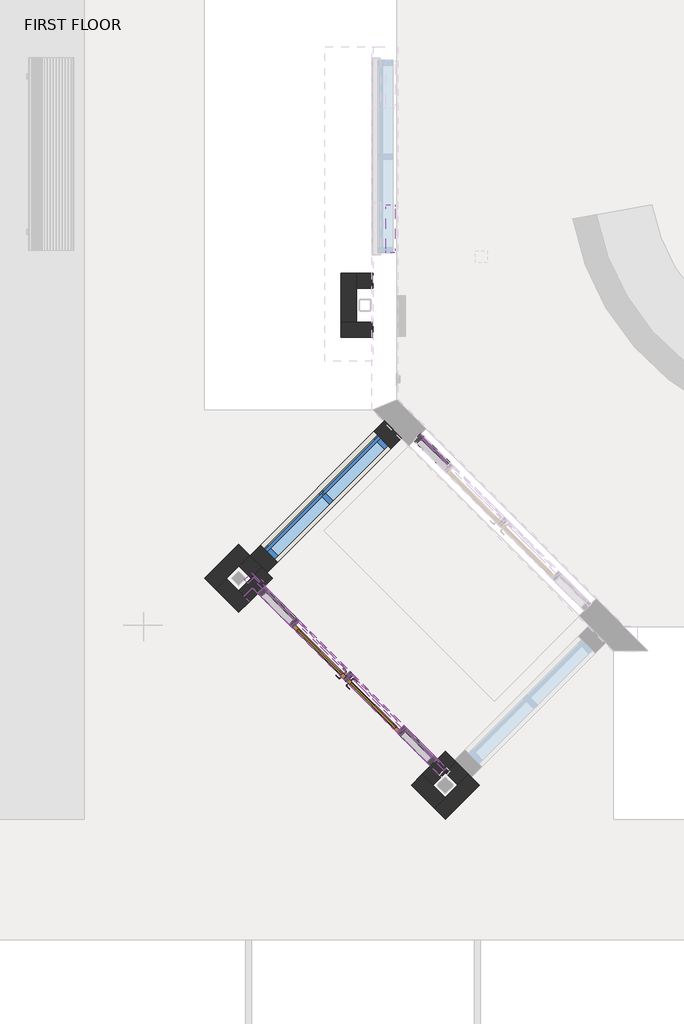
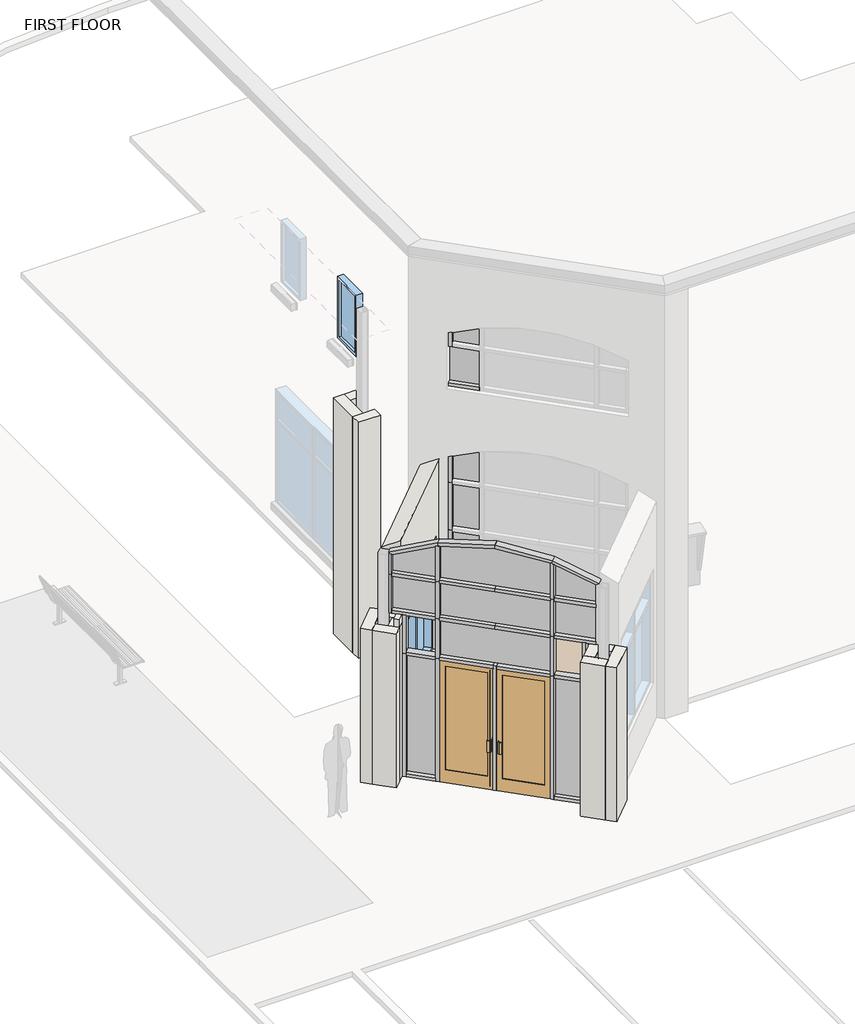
# One storey, part 1 of 7: 40 members, 15 plates, 13 walls, 2 doors, 2 windows.
"""IFC4 building model written with IfcOpenShell, lengths in millimetres."""

from ifc_helpers import new_model, si_unit, frame, origin, place, context, project, spatial, polyline, circle_curve, outline, extrude, faceted_brep, transform, mapped, element, save
from ifc_brep_helpers import plane_surface, cylinder_surface, advanced_brep
from components import curtain_wall_store_front_single_med_stile_store_front_single_c6cdc8f1, curtain_wall_store_front_single_med_stile_store_front_single_1d4f68a2, member_33497832, member_f0fea5a5, member_5535eeb3, member_ee409385, member_57980dff, member_c7d2ba5d, member_623bfa76, member_e557a406, member_0d25082b, member_52f6b921, member_60276a26, member_00b05e59, member_7eb850c3, member_627026b5, member_720a8fcb, member_9ba9524c, member_fa7abc04, member_438d2f6f, member_faeb69b8, member_37fa9b24, member_2cf29476, member_18a184ad, member_8ca7f02a, member_46f5bc36, member_aa870034, member_95b791d6, member_274b5bb4, member_b86862dd, system_panel_glazed_7ef526e5, system_panel_glazed_cf9f2373, system_panel_glazed_625fda9a, system_panel_glazed_4b47f067, system_panel_glazed_9944f469, system_panel_glazed_93fda46f, system_panel_glazed_61f50c52, system_panel_glazed_463703e3, system_panel_glazed_89c3e3a8, system_panel_glazed_499409c8, system_panel_glazed_23cc593c, system_panel_glazed_6117aa94, system_panel_glazed_f2188aaa, system_panel_glazed_1c0335f5, system_panel_glazed_6635dc3f, aluminum_exterior_window_single_3885_e2dbf674, window_5003604b

model = new_model("IFC4")

# Units and contexts
model_context = context("Model", 3, world=origin())
ifc_project = project(units=[si_unit("LENGTHUNIT", "METRE", prefix="MILLI")], contexts=[model_context])

# Site, building, storey
site = spatial("IfcSite", under=ifc_project)
building = spatial("IfcBuilding", under=site)
storey = spatial("IfcBuildingStorey", under=building, Name="FIRST FLOOR", Elevation=30480.0)

# Doors
placement = place(None, origin())
curtain_wall_store_front_single_med_stile_store_front_single_shape = curtain_wall_store_front_single_med_stile_store_front_single_c6cdc8f1(model_context)
element("IfcDoor", 1, ObjectType="Curtain Wall-Store Front-Single Med Stile : Store Front Single Door", at=placement, inside=storey, context=model_context, shape_type="MappedRepresentation", body=[
    mapped(curtain_wall_store_front_single_med_stile_store_front_single_shape, transform((-16797.3324176, -6929.3654032, 30480.0), x_axis=(0.707106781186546, -0.7071067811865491, 0.0), y_axis=(0.7071067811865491, 0.707106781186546, 0.0), z_axis=(0.0, 0.0, 1.0))),
])
curtain_wall_store_front_single_med_stile_store_front_single_2_shape = curtain_wall_store_front_single_med_stile_store_front_single_1d4f68a2(model_context)
element("IfcDoor", 2, ObjectType="Curtain Wall-Store Front-Single Med Stile : Store Front Single Door", at=placement, inside=storey, context=model_context, shape_type="MappedRepresentation", body=[
    mapped(curtain_wall_store_front_single_med_stile_store_front_single_2_shape, transform((-17479.8318828, -6246.8659379, 30480.0), x_axis=(-0.707106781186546, 0.7071067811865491, 0.0), y_axis=(-0.7071067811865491, -0.707106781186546, 0.0), z_axis=(0.0, 0.0, 1.0))),
])

# Members
member_shape = member_33497832(model_context)
element("IfcMember", 3, ObjectType="Rectangular Mullion : 2.5\" x 5\" rectangular", at=placement, inside=storey, context=model_context, shape_type="MappedRepresentation", body=[
    mapped(member_shape, transform((-17161.0327905, -6565.6650302, 32918.4), x_axis=(0.0, 0.0, 1.0), y_axis=(-0.7071067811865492, -0.7071067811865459, 0.0), z_axis=(0.7071067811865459, -0.7071067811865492, 0.0))),
])
element("IfcMember", 4, ObjectType="Rectangular Mullion : 2.5\" x 5\" rectangular", at=placement, inside=storey, context=model_context, shape_type="MappedRepresentation", body=[
    mapped(member_shape, transform((-16478.5333253, -7248.1644954, 32918.4), x_axis=(0.0, 0.0, 1.0), y_axis=(-0.7071067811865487, -0.7071067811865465, 0.0), z_axis=(0.7071067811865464, -0.7071067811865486, 0.0))),
])
member_2_shape = member_f0fea5a5(model_context)
element("IfcMember", 5, ObjectType="Rectangular Mullion : 2.5\" x 5\" rectangular", at=placement, inside=storey, context=model_context, shape_type="MappedRepresentation", body=[
    mapped(member_2_shape, transform((-16456.082685, -7270.6151358, 30480.0), x_axis=(0.707106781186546, -0.7071067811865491, 0.0), y_axis=(-0.7071067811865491, -0.707106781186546, 0.0), z_axis=(0.0, 0.0, -1.0))),
])
element("IfcMember", 6, ObjectType="Rectangular Mullion : 2.5\" x 5\" rectangular", at=placement, inside=storey, context=model_context, shape_type="MappedRepresentation", body=[
    mapped(member_2_shape, transform((-17821.0816154, -5905.6162053, 30480.0), x_axis=(0.707106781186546, -0.7071067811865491, 0.0), y_axis=(-0.7071067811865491, -0.707106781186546, 0.0), z_axis=(0.0, 0.0, -1.0))),
])
member_3_shape = member_5535eeb3(model_context)
element("IfcMember", 7, ObjectType="Rectangular Mullion : 2.5\" x 5\" rectangular", at=placement, inside=storey, context=model_context, shape_type="MappedRepresentation", body=[
    mapped(member_3_shape, transform((-16217.3167265, -3601.391339, 30480.0), x_axis=(0.0, 0.0, -1.0), y_axis=(-0.7071067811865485, -0.7071067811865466, 0.0), z_axis=(-0.7071067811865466, 0.7071067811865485, 0.0))),
])
member_4_shape = member_ee409385(model_context)
element("IfcMember", 8, ObjectType="Rectangular Mullion : 2.5\" x 5\" rectangular", at=placement, inside=storey, context=model_context, shape_type="MappedRepresentation", body=[
    mapped(member_4_shape, transform((-16262.2180071, -3556.4900584, 32918.4), x_axis=(-0.707106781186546, 0.7071067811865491, 0.0), y_axis=(-0.7071067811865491, -0.707106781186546, 0.0), z_axis=(0.0, 0.0, 1.0))),
])
element("IfcMember", 9, ObjectType="Rectangular Mullion : 2.5\" x 5\" rectangular", at=placement, inside=storey, context=model_context, shape_type="MappedRepresentation", body=[
    mapped(member_4_shape, transform((-18239.6147633, -5487.0830574, 32918.4), x_axis=(-0.707106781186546, 0.7071067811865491, 0.0), y_axis=(-0.7071067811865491, -0.707106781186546, 0.0), z_axis=(0.0, 0.0, 1.0))),
])
member_5_shape = member_57980dff(model_context)
element("IfcMember", 10, ObjectType="Rectangular Mullion : 2.5\" x 5\" rectangular", at=placement, inside=storey, context=model_context, shape_type="MappedRepresentation", body=[
    mapped(member_5_shape, transform((-17138.5821502, -6588.1156705, 30480.0), x_axis=(0.707106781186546, -0.7071067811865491, 0.0), y_axis=(-0.7071067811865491, -0.707106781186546, 0.0), z_axis=(0.0, 0.0, -1.0))),
])
element("IfcMember", 11, ObjectType="Rectangular Mullion : 2.5\" x 5\" rectangular", at=placement, inside=storey, context=model_context, shape_type="MappedRepresentation", body=[
    mapped(member_4_shape, transform((-16053.719351, -7672.9784698, 30480.0), x_axis=(0.707106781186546, -0.7071067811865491, 0.0), y_axis=(-0.7071067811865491, -0.707106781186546, 0.0), z_axis=(0.0, 0.0, -1.0))),
])
member_6_shape = member_c7d2ba5d(model_context)
element("IfcMember", 12, ObjectType="Rectangular Mullion : 2.5\" x 5\" rectangular", at=placement, inside=storey, context=model_context, shape_type="MappedRepresentation", body=[
    mapped(member_6_shape, transform((-17138.5821502, -6588.1156705, 34442.4), x_axis=(0.0, 0.0, 1.0), y_axis=(-0.7071067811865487, -0.7071067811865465, 0.0), z_axis=(0.7071067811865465, -0.7071067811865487, 0.0))),
])
element("IfcMember", 13, ObjectType="Rectangular Mullion : 2.5\" x 5\" rectangular", at=placement, inside=storey, context=model_context, shape_type="MappedRepresentation", body=[
    mapped(member_6_shape, transform((-17138.5821502, -6588.1156705, 33705.8), x_axis=(0.0, 0.0, 1.0), y_axis=(-0.7071067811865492, -0.7071067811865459, 0.0), z_axis=(0.7071067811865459, -0.7071067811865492, 0.0))),
])
element("IfcMember", 14, ObjectType="Rectangular Mullion : 2.5\" x 5\" rectangular", at=placement, inside=storey, context=model_context, shape_type="MappedRepresentation", body=[
    mapped(member_6_shape, transform((-16478.5333253, -7248.1644954, 34442.4), x_axis=(0.0, 0.0, 1.0), y_axis=(-0.7071067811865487, -0.7071067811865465, 0.0), z_axis=(0.7071067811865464, -0.7071067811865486, 0.0))),
])
element("IfcMember", 15, ObjectType="Rectangular Mullion : 2.5\" x 5\" rectangular", at=placement, inside=storey, context=model_context, shape_type="MappedRepresentation", body=[
    mapped(member_6_shape, transform((-16478.5333253, -7248.1644954, 33705.8), x_axis=(0.0, 0.0, 1.0), y_axis=(-0.7071067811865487, -0.7071067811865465, 0.0), z_axis=(0.7071067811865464, -0.7071067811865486, 0.0))),
])
member_7_shape = member_623bfa76(model_context)
element("IfcMember", 16, ObjectType="Rectangular Mullion : 2.5\" x 5\" rectangular", at=placement, inside=storey, context=model_context, shape_type="MappedRepresentation", body=[
    mapped(member_7_shape, transform((-16262.2180071, -3556.4900584, 33502.6), x_axis=(-0.707106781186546, 0.7071067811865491, 0.0), y_axis=(-0.7071067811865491, -0.707106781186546, 0.0), z_axis=(0.0, 0.0, 1.0))),
])
member_8_shape = member_e557a406(model_context)
element("IfcMember", 17, ObjectType="Rectangular Mullion : 2.5\" x 5\" rectangular", at=placement, inside=storey, context=model_context, shape_type="MappedRepresentation", body=[
    mapped(member_8_shape, transform((-16262.2180071, -3556.4900584, 34442.4), x_axis=(-0.707106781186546, 0.7071067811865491, 0.0), y_axis=(-0.7071067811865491, -0.707106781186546, 0.0), z_axis=(0.0, 0.0, 1.0))),
])
member_9_shape = member_0d25082b(model_context)
element("IfcMember", 18, ObjectType="Rectangular Mullion : 2.5\" x 5\" rectangular", at=placement, inside=storey, context=model_context, shape_type="MappedRepresentation", body=[
    mapped(member_9_shape, transform((-16262.2180071, -3556.4900584, 35006.8677208), x_axis=(-0.707106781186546, 0.7071067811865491, 0.0), y_axis=(-0.7071067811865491, -0.707106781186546, 0.0), z_axis=(0.0, 0.0, 1.0))),
])
member_10_shape = member_52f6b921(model_context)
element("IfcMember", 19, ObjectType="Rectangular Mullion : 2.5\" x 5\" rectangular", at=placement, inside=storey, context=model_context, shape_type="MappedRepresentation", body=[
    mapped(member_10_shape, transform((-17843.5322557, -5883.165565, 32918.4), x_axis=(0.0, 0.0, 1.0), y_axis=(-0.7071067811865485, -0.7071067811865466, 0.0), z_axis=(0.7071067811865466, -0.7071067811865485, 0.0))),
])
member_11_shape = member_60276a26(model_context)
element("IfcMember", 20, ObjectType="Rectangular Mullion : 2.5\" x 5\" rectangular", at=placement, inside=storey, context=model_context, shape_type="MappedRepresentation", body=[
    mapped(member_11_shape, transform((-16098.6206316, -7628.0771892, 32918.4), x_axis=(0.0, 0.0, 1.0), y_axis=(-0.7071067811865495, -0.7071067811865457, 0.0), z_axis=(0.7071067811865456, -0.7071067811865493, 0.0))),
])
member_12_shape = member_00b05e59(model_context)
element("IfcMember", 21, ObjectType="Rectangular Mullion : 2.5\" x 5\" rectangular", at=placement, inside=storey, context=model_context, shape_type="MappedRepresentation", body=[
    mapped(member_12_shape, transform((-18194.7134827, -5531.984338, 30480.0), x_axis=(0.0, 0.0, -1.0), y_axis=(-0.7071067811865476, -0.7071067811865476, 0.0), z_axis=(-0.7071067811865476, 0.7071067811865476, 0.0))),
])
member_13_shape = member_7eb850c3(model_context)
element("IfcMember", 22, ObjectType="Rectangular Mullion : 2.5\" x 5\" rectangular", at=placement, inside=storey, context=model_context, shape_type="MappedRepresentation", body=[
    mapped(member_13_shape, transform((-16433.6320447, -7293.0657761, 30480.0), x_axis=(0.0, 0.0, -1.0), y_axis=(-0.7071067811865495, -0.7071067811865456, 0.0), z_axis=(-0.7071067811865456, 0.7071067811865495, 0.0))),
])
member_14_shape = member_627026b5(model_context)
element("IfcMember", 23, ObjectType="Rectangular Mullion : 2.5\" x 5\" rectangular", at=placement, inside=storey, context=model_context, shape_type="MappedRepresentation", body=[
    mapped(member_14_shape, transform((-16456.082685, -7270.6151358, 34442.4), x_axis=(0.707106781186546, -0.7071067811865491, 0.0), y_axis=(-0.7071067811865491, -0.707106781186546, 0.0), z_axis=(0.0, 0.0, -1.0))),
])
member_15_shape = member_720a8fcb(model_context)
element("IfcMember", 24, ObjectType="Rectangular Mullion : 2.5\" x 5\" rectangular", at=placement, inside=storey, context=model_context, shape_type="MappedRepresentation", body=[
    mapped(member_15_shape, transform((-17821.0816154, -5905.6162053, 34442.4), x_axis=(0.707106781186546, -0.7071067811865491, 0.0), y_axis=(-0.7071067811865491, -0.707106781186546, 0.0), z_axis=(0.0, 0.0, -1.0))),
])
member_16_shape = member_9ba9524c(model_context)
element("IfcMember", 25, ObjectType="Rectangular Mullion : 2.5\" x 5\" rectangular", at=placement, inside=storey, context=model_context, shape_type="MappedRepresentation", body=[
    mapped(member_16_shape, transform((-17138.5821502, -6588.1156705, 35335.2420044), x_axis=(-0.0008797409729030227, 0.0008797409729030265, 0.9999992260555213), y_axis=(-0.7071067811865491, -0.707106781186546, 0.0), z_axis=(0.7071062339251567, -0.7071062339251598, 0.0012441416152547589))),
])
member_17_shape = member_fa7abc04(model_context)
element("IfcMember", 26, ObjectType="Rectangular Mullion : 2.5\" x 5\" rectangular", at=placement, inside=storey, context=model_context, shape_type="MappedRepresentation", body=[
    mapped(member_17_shape, transform((-16456.082685, -7270.6151358, 35209.163552), x_axis=(0.18248144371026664, -0.18248144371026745, 0.9661268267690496), y_axis=(-0.7071067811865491, -0.707106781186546, 0.0), z_axis=(0.6831548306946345, -0.6831548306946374, -0.2580677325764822))),
])
member_18_shape = member_438d2f6f(model_context)
element("IfcMember", 27, ObjectType="Rectangular Mullion : 2.5\" x 5\" rectangular", at=placement, inside=storey, context=model_context, shape_type="MappedRepresentation", body=[
    mapped(member_18_shape, transform((-17843.5322557, -5883.165565, 34442.4), x_axis=(0.0, 0.0, 1.0), y_axis=(-0.7071067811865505, -0.7071067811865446, 0.0), z_axis=(0.7071067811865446, -0.7071067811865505, 0.0))),
])
element("IfcMember", 28, ObjectType="Rectangular Mullion : 2.5\" x 5\" rectangular", at=placement, inside=storey, context=model_context, shape_type="MappedRepresentation", body=[
    mapped(member_18_shape, transform((-17843.5322557, -5883.165565, 33705.8), x_axis=(0.0, 0.0, 1.0), y_axis=(-0.7071067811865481, -0.7071067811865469, 0.0), z_axis=(0.7071067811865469, -0.7071067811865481, 0.0))),
])
member_19_shape = member_faeb69b8(model_context)
element("IfcMember", 29, ObjectType="Rectangular Mullion : 2.5\" x 5\" rectangular", at=placement, inside=storey, context=model_context, shape_type="MappedRepresentation", body=[
    mapped(member_19_shape, transform((-17821.0816154, -5905.6162053, 35206.676796), x_axis=(-0.18424092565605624, 0.18424092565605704, 0.9654587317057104), y_axis=(-0.7071067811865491, -0.7071067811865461, 0.0), z_axis=(0.68268241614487, -0.6826824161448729, 0.2605560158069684))),
])
member_20_shape = member_37fa9b24(model_context)
element("IfcMember", 30, ObjectType="Rectangular Mullion : 2.5\" x 5\" rectangular", at=placement, inside=storey, context=model_context, shape_type="MappedRepresentation", body=[
    mapped(member_20_shape, transform((-18409.6082054, -5317.0896154, 34869.8916108), x_axis=(-0.707106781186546, 0.7071067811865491, 0.0), y_axis=(-0.7071067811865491, -0.707106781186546, 0.0), z_axis=(0.0, 0.0, 1.0))),
])
member_21_shape = member_2cf29476(model_context)
element("IfcMember", 31, ObjectType="Rectangular Mullion : 2.5\" x 5\" rectangular", at=placement, inside=storey, context=model_context, shape_type="MappedRepresentation", body=[
    mapped(member_21_shape, transform((-15939.8407999, -7786.8570208, 34442.4), x_axis=(0.0, 0.0, 1.0), y_axis=(-0.7071067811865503, -0.7071067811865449, 0.0), z_axis=(0.7071067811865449, -0.7071067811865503, 0.0))),
])
element("IfcMember", 32, ObjectType="Rectangular Mullion : 2.5\" x 5\" rectangular", at=placement, inside=storey, context=model_context, shape_type="MappedRepresentation", body=[
    mapped(member_21_shape, transform((-15939.8407999, -7786.8570208, 33705.8), x_axis=(0.0, 0.0, 1.0), y_axis=(-0.7071067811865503, -0.7071067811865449, 0.0), z_axis=(0.7071067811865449, -0.7071067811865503, 0.0))),
])
member_22_shape = member_18a184ad(model_context)
element("IfcMember", 33, ObjectType="Rectangular Mullion : 2.5\" x 5\" rectangular", at=placement, inside=storey, context=model_context, shape_type="MappedRepresentation", body=[
    mapped(member_22_shape, transform((-16456.082685, -7270.6151358, 32918.4), x_axis=(0.707106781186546, -0.7071067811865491, 0.0), y_axis=(-0.7071067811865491, -0.707106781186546, 0.0), z_axis=(0.0, 0.0, -1.0))),
])
element("IfcMember", 34, ObjectType="Rectangular Mullion : 2.5\" x 5\" rectangular", at=placement, inside=storey, context=model_context, shape_type="MappedRepresentation", body=[
    mapped(member_22_shape, transform((-17821.0816154, -5905.6162053, 32918.4), x_axis=(0.707106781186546, -0.7071067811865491, 0.0), y_axis=(-0.7071067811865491, -0.707106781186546, 0.0), z_axis=(0.0, 0.0, -1.0))),
])
member_23_shape = member_8ca7f02a(model_context)
element("IfcMember", 35, ObjectType="Rectangular Mullion : 2.5\" x 5\" rectangular", at=placement, inside=storey, context=model_context, shape_type="MappedRepresentation", body=[
    mapped(member_23_shape, transform((-16456.082685, -7270.6151358, 33705.8), x_axis=(0.707106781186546, -0.7071067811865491, 0.0), y_axis=(-0.7071067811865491, -0.707106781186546, 0.0), z_axis=(0.0, 0.0, -1.0))),
])
element("IfcMember", 36, ObjectType="Rectangular Mullion : 2.5\" x 5\" rectangular", at=placement, inside=storey, context=model_context, shape_type="MappedRepresentation", body=[
    mapped(member_23_shape, transform((-17821.0816154, -5905.6162053, 33705.8), x_axis=(0.707106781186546, -0.7071067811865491, 0.0), y_axis=(-0.7071067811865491, -0.707106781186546, 0.0), z_axis=(0.0, 0.0, -1.0))),
])
member_24_shape = member_46f5bc36(model_context)
element("IfcMember", 37, ObjectType="Rectangular Mullion : 2.5\" x 5\" rectangular", at=placement, inside=storey, context=model_context, shape_type="MappedRepresentation", body=[
    mapped(member_24_shape, transform((-18409.6082054, -5317.0896154, 34442.4), x_axis=(-0.707106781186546, 0.7071067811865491, 0.0), y_axis=(-0.7071067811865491, -0.707106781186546, 0.0), z_axis=(0.0, 0.0, 1.0))),
])
member_25_shape = member_aa870034(model_context)
element("IfcMember", 38, ObjectType="Rectangular Mullion : 2.5\" x 5\" rectangular", at=placement, inside=storey, context=model_context, shape_type="MappedRepresentation", body=[
    mapped(member_25_shape, transform((-18239.6147633, -5487.0830574, 33680.4), x_axis=(-0.707106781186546, 0.7071067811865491, 0.0), y_axis=(-0.7071067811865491, -0.707106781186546, 0.0), z_axis=(0.0, 0.0, 1.0))),
])
element("IfcMember", 39, ObjectType="Rectangular Mullion : 2.5\" x 5\" rectangular", at=placement, inside=storey, context=model_context, shape_type="MappedRepresentation", body=[
    mapped(member_25_shape, transform((-16053.719351, -7672.9784698, 32918.4), x_axis=(0.707106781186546, -0.7071067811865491, 0.0), y_axis=(-0.7071067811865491, -0.707106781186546, 0.0), z_axis=(0.0, 0.0, -1.0))),
])
member_26_shape = member_95b791d6(model_context)
element("IfcMember", 40, ObjectType="Rectangular Mullion : 2.5\" x 5\" rectangular", at=placement, inside=storey, context=model_context, shape_type="MappedRepresentation", body=[
    mapped(member_26_shape, transform((-16262.2180071, -3556.4900584, 37454.4517124), x_axis=(-0.7071067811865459, 0.7071067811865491, 0.0), y_axis=(-0.7071067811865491, -0.7071067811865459, 0.0), z_axis=(0.0, 0.0, 1.0))),
])
member_27_shape = member_274b5bb4(model_context)
element("IfcMember", 41, ObjectType="Rectangular Mullion : 2.5\" x 5\" rectangular", at=placement, inside=storey, context=model_context, shape_type="MappedRepresentation", body=[
    mapped(member_27_shape, transform((-16262.2180071, -3556.4900584, 36347.4), x_axis=(0.0, 0.0, -1.0), y_axis=(-0.707106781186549, -0.7071067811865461, 0.0), z_axis=(-0.707106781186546, 0.7071067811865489, 0.0))),
])
member_28_shape = member_b86862dd(model_context)
element("IfcMember", 42, ObjectType="Rectangular Mullion : 2.5\" x 5\" rectangular", at=placement, inside=storey, context=model_context, shape_type="MappedRepresentation", body=[
    mapped(member_28_shape, transform((-15894.9395193, -7831.7583014, 34895.987271), x_axis=(0.33323888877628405, -0.33323888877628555, 0.8819884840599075), y_axis=(-0.7071067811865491, -0.707106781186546, 0.0), z_axis=(0.6236600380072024, -0.6236600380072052, -0.4712709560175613))),
])

# Plates
system_panel_glazed_shape = system_panel_glazed_7ef526e5(model_context)
element("IfcPlate", 43, ObjectType="System Panel : Glazed", at=placement, inside=storey, context=model_context, shape_type="MappedRepresentation", body=[
    mapped(system_panel_glazed_shape, transform((-16053.4270523, -3765.2810133, 30543.5), x_axis=(0.707106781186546, -0.7071067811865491, 0.0), y_axis=(0.7071067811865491, 0.707106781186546, 0.0), z_axis=(0.0, 0.0, 1.0))),
])
system_panel_glazed_2_shape = system_panel_glazed_cf9f2373(model_context)
element("IfcPlate", 44, ObjectType="System Panel : Glazed", at=placement, inside=storey, context=model_context, shape_type="MappedRepresentation", body=[
    mapped(system_panel_glazed_2_shape, transform((-16053.4270523, -3765.2810133, 32950.15), x_axis=(0.707106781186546, -0.7071067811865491, 0.0), y_axis=(0.7071067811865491, 0.707106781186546, 0.0), z_axis=(0.0, 0.0, 1.0))),
])
system_panel_glazed_3_shape = system_panel_glazed_625fda9a(model_context)
element("IfcPlate", 45, ObjectType="System Panel : Glazed", at=placement, inside=storey, context=model_context, shape_type="MappedRepresentation", body=[
    mapped(system_panel_glazed_3_shape, transform((-16053.4270523, -3765.2810133, 33534.35), x_axis=(0.707106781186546, -0.7071067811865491, 0.0), y_axis=(0.7071067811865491, 0.707106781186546, 0.0), z_axis=(0.0, 0.0, 1.0))),
])
system_panel_glazed_4_shape = system_panel_glazed_4b47f067(model_context)
element("IfcPlate", 46, ObjectType="System Panel : Glazed", at=placement, inside=storey, context=model_context, shape_type="MappedRepresentation", body=[
    mapped(system_panel_glazed_4_shape, transform((-16053.4270523, -3765.2810133, 34474.15), x_axis=(0.707106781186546, -0.7071067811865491, 0.0), y_axis=(0.7071067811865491, 0.707106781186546, 0.0), z_axis=(0.0, 0.0, 1.0))),
])
system_panel_glazed_5_shape = system_panel_glazed_9944f469(model_context)
element("IfcPlate", 47, ObjectType="System Panel : Glazed", at=placement, inside=storey, context=model_context, shape_type="MappedRepresentation", body=[
    mapped(system_panel_glazed_5_shape, transform((-17138.5821502, -6588.1156705, 34474.15), x_axis=(0.707106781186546, -0.7071067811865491, 0.0), y_axis=(0.7071067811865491, 0.707106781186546, 0.0), z_axis=(0.0, 0.0, 1.0))),
])
system_panel_glazed_6_shape = system_panel_glazed_93fda46f(model_context)
element("IfcPlate", 48, ObjectType="System Panel : Glazed", at=placement, inside=storey, context=model_context, shape_type="MappedRepresentation", body=[
    mapped(system_panel_glazed_6_shape, transform((-16053.4270523, -3765.2810133, 37191.95), x_axis=(0.7071067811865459, -0.7071067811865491, 0.0), y_axis=(0.7071067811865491, 0.7071067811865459, 0.0), z_axis=(0.0, 0.0, 1.0))),
])
system_panel_glazed_7_shape = system_panel_glazed_61f50c52(model_context)
element("IfcPlate", 49, ObjectType="System Panel : Glazed", at=placement, inside=storey, context=model_context, shape_type="MappedRepresentation", body=[
    mapped(system_panel_glazed_7_shape, transform((-18019.1228692, -5707.5749515, 30543.5), x_axis=(0.707106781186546, -0.7071067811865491, 0.0), y_axis=(0.7071067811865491, 0.707106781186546, 0.0), z_axis=(0.0, 0.0, 1.0))),
])
system_panel_glazed_8_shape = system_panel_glazed_463703e3(model_context)
element("IfcPlate", 50, ObjectType="System Panel : Glazed", at=placement, inside=storey, context=model_context, shape_type="MappedRepresentation", body=[
    mapped(system_panel_glazed_8_shape, transform((-16266.1263381, -7460.5714826, 30543.5), x_axis=(0.707106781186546, -0.7071067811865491, 0.0), y_axis=(0.7071067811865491, 0.707106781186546, 0.0), z_axis=(0.0, 0.0, 1.0))),
])
system_panel_glazed_9_shape = system_panel_glazed_89c3e3a8(model_context)
element("IfcPlate", 51, ObjectType="System Panel : Glazed", at=placement, inside=storey, context=model_context, shape_type="MappedRepresentation", body=[
    mapped(system_panel_glazed_9_shape, transform((-18104.1195902, -5622.5782305, 34474.15), x_axis=(0.707106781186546, -0.7071067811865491, 0.0), y_axis=(0.7071067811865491, 0.707106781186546, 0.0), z_axis=(0.0, 0.0, 1.0))),
])
system_panel_glazed_10_shape = system_panel_glazed_499409c8(model_context)
element("IfcPlate", 52, ObjectType="System Panel : Glazed", at=placement, inside=storey, context=model_context, shape_type="MappedRepresentation", body=[
    mapped(system_panel_glazed_10_shape, transform((-16186.7364223, -7539.9613984, 34474.15), x_axis=(0.707106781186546, -0.7071067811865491, 0.0), y_axis=(0.7071067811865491, 0.707106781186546, 0.0), z_axis=(0.0, 0.0, 1.0))),
])
system_panel_glazed_11_shape = system_panel_glazed_23cc593c(model_context)
element("IfcPlate", 53, ObjectType="System Panel : Glazed", at=placement, inside=storey, context=model_context, shape_type="MappedRepresentation", body=[
    mapped(system_panel_glazed_11_shape, transform((-17138.5821502, -6588.1156705, 32950.15), x_axis=(0.707106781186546, -0.7071067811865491, 0.0), y_axis=(0.7071067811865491, 0.707106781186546, 0.0), z_axis=(0.0, 0.0, 1.0))),
])
system_panel_glazed_12_shape = system_panel_glazed_6117aa94(model_context)
element("IfcPlate", 54, ObjectType="System Panel : Glazed", at=placement, inside=storey, context=model_context, shape_type="MappedRepresentation", body=[
    mapped(system_panel_glazed_12_shape, transform((-18104.1195902, -5622.5782305, 33737.55), x_axis=(0.707106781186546, -0.7071067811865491, 0.0), y_axis=(0.7071067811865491, 0.707106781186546, 0.0), z_axis=(0.0, 0.0, 1.0))),
])
system_panel_glazed_13_shape = system_panel_glazed_f2188aaa(model_context)
element("IfcPlate", 55, ObjectType="System Panel : Glazed", at=placement, inside=storey, context=model_context, shape_type="MappedRepresentation", body=[
    mapped(system_panel_glazed_13_shape, transform((-17138.5821502, -6588.1156705, 33737.55), x_axis=(0.707106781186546, -0.7071067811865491, 0.0), y_axis=(0.7071067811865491, 0.707106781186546, 0.0), z_axis=(0.0, 0.0, 1.0))),
])
system_panel_glazed_14_shape = system_panel_glazed_1c0335f5(model_context)
element("IfcPlate", 56, ObjectType="System Panel : Glazed", at=placement, inside=storey, context=model_context, shape_type="MappedRepresentation", body=[
    mapped(system_panel_glazed_14_shape, transform((-16186.7364223, -7539.9613984, 33737.55), x_axis=(0.707106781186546, -0.7071067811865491, 0.0), y_axis=(0.7071067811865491, 0.707106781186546, 0.0), z_axis=(0.0, 0.0, 1.0))),
])
system_panel_glazed_15_shape = system_panel_glazed_6635dc3f(model_context)
element("IfcPlate", 57, ObjectType="System Panel : Glazed", at=placement, inside=storey, context=model_context, shape_type="MappedRepresentation", body=[
    mapped(system_panel_glazed_15_shape, transform((-16075.8776926, -3742.830373, 36410.9), x_axis=(0.7071067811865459, -0.7071067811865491, 0.0), y_axis=(0.7071067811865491, 0.7071067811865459, 0.0), z_axis=(0.0, 0.0, 1.0))),
])

# Walls
element("IfcWall", 58, ObjectType="Exterior - Brick on Mtl. Stud", at=placement, inside=storey, context=model_context, shape_type="AdvancedBrep", body=[
    advanced_brep(
    [(-18167.7727144, -5271.5569105, 30480.0), (-16465.2250082, -3569.0092043, 30480.0), (-16465.2250082, -3569.0092043, 34942.9227686), (-18167.7727144, -5271.5569105, 34942.9227686), (-16598.0783716, -3701.8625677, 33528.0), (-16598.0783716, -3701.8625677, 31292.8), (-18034.919351, -5138.7035471, 31292.8), (-18034.919351, -5138.7035471, 33528.0), (-18383.2988613, -5056.0307636, 30480.0), (-18383.2988613, -5056.0307636, 34772.3495615), (-16680.7511551, -3353.4830574, 34772.3495615), (-16680.7511551, -3353.4830574, 30480.0), (-16813.6045185, -3486.3364208, 33528.0), (-18250.4454979, -4923.1774002, 33528.0), (-18250.4454979, -4923.1774002, 31292.8), (-16813.6045185, -3486.3364208, 31292.8)],
    [
        (0, 1),
        (1, 2),
        (2, 3),
        (3, 0),
        (4, 5),
        (5, 6),
        (6, 7),
        (7, 4),
        (8, 9),
        (9, 10),
        (10, 11),
        (11, 8),
        (12, 13),
        (13, 14),
        (14, 15),
        (15, 12),
        (0, 8),
        (11, 1),
        (10, 2, circle_curve(frame((-15289.0758104, -4745.1584021, 31613.0859867), z_axis=(0.707106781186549, 0.7071067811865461, 0.0), x_axis=(0.7071067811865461, -0.707106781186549, 0.0)), 3722.1588985)),
        (3, 9, circle_curve(frame((-16991.6235166, -6447.7061083, 31613.0859867), z_axis=(-0.707106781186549, -0.7071067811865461, 0.0), x_axis=(0.7071067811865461, -0.707106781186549, 0.0)), 3722.1588985)),
        (4, 12),
        (15, 5),
        (14, 6),
        (13, 7),
    ],
    [
        plane_surface(frame((-18167.7727144, -5271.5569105, 30480.0), z_axis=(0.7071067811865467, -0.7071067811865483, 0.0), x_axis=(0.7071067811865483, 0.7071067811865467, 0.0))),
        plane_surface(frame((-18383.2988613, -5056.0307636, 30480.0), z_axis=(-0.7071067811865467, 0.7071067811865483, 0.0), x_axis=(-0.7071067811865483, -0.7071067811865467, 0.0))),
        plane_surface(frame((-18236.2471673, -5340.0313634, 30480.0), z_axis=(0.0, 0.0, -1.0), x_axis=(-0.7071067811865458, 0.7071067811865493, 0.0))),
        plane_surface(frame((-15322.7537163, -4711.4804962, 30114.24), z_axis=(0.7071067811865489, 0.7071067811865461, 0.0), x_axis=(-0.7071067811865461, 0.7071067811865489, 0.0))),
        plane_surface(frame((-18239.6147633, -5199.7148615, 30480.0), z_axis=(-0.7071067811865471, -0.7071067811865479, 0.0), x_axis=(-0.7071067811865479, 0.7071067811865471, 0.0))),
        cylinder_surface(frame((-15289.0758104, -4745.1584021, 31613.0859867), z_axis=(0.707106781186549, 0.7071067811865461, 0.0), x_axis=(0.7071067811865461, -0.707106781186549, 0.0)), 3722.1588985),
        plane_surface(frame((-16598.0783716, -3701.8625677, 33528.0), z_axis=(-0.7071067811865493, -0.7071067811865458, 0.0), x_axis=(-0.7071067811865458, 0.7071067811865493, 0.0))),
        plane_surface(frame((-16598.0783716, -3701.8625677, 31292.8), z_axis=(0.0, 0.0, 1.0000000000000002), x_axis=(-0.7071067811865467, 0.7071067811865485, 0.0))),
        plane_surface(frame((-18034.919351, -5138.7035471, 31292.8), z_axis=(0.7071067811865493, 0.7071067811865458, 0.0), x_axis=(-0.7071067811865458, 0.7071067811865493, 0.0))),
        plane_surface(frame((-18034.919351, -5138.7035471, 33528.0), z_axis=(0.0, 0.0, -1.0), x_axis=(-0.7071067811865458, 0.7071067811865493, 0.0))),
    ],
    [
        (0, [[1, 2, 3, 4], [5, 6, 7, 8]]),
        (1, [[9, 10, 11, 12], [13, 14, 15, 16]]),
        (2, [[-1, 17, -12, 18]]),
        (3, [[-2, -18, -11, 19]]),
        (4, [[-4, 20, -9, -17]]),
        (5, [[-3, -19, -10, -20]]),
        (6, [[-5, 21, -16, 22]]),
        (7, [[-6, -22, -15, 23]]),
        (8, [[-7, -23, -14, 24]]),
        (9, [[-8, -24, -13, -21]]),
    ],
),
])
element("IfcWall", 59, ObjectType="Exterior - Brick on Mtl. Stud", at=placement, inside=storey, context=model_context, shape_type="SweptSolid", body=[
    extrude(outline(polyline([(-18458.5085063, -5569.0278945), (-18242.9823594, -5353.5017476), (-18174.5079065, -5421.9762005), (-18390.0340534, -5637.5023474), (-18458.5085063, -5569.0278945)])), frame((0.0, 0.0, 33528.0), z_axis=(0.0, 0.0, 1.0), x_axis=(1.0, 0.0, 0.0)), (0.0, 0.0, 1.0), 152.4),
])
element("IfcWall", 60, ObjectType="Generic - 8\" Masonry", at=placement, inside=storey, context=model_context, shape_type="Brep", body=[
    faceted_brep([(-15615.9318651, -7823.3977598, 30480.0), (-15752.8807709, -7960.3466657, 30480.0), (-15910.035253, -8117.5011478, 30480.0), (-16046.9841589, -8254.4500536, 30480.0), (-16046.9841589, -8254.4500536, 33528.0), (-15910.035253, -8117.5011478, 33528.0), (-15752.8807709, -7960.3466657, 33528.0), (-15615.9318651, -7823.3977598, 33528.0), (-15478.9829592, -7960.3466657, 30480.0), (-15478.9829592, -7960.3466657, 33528.0), (-15910.035253, -8391.3989595, 33528.0), (-15910.035253, -8391.3989595, 30480.0)], [[[0, 1, 2, 3, 4, 5, 6, 7]], [[8, 9, 10, 11]], [[3, 2, 1, 0, 8, 11]], [[7, 6, 5, 4, 10, 9]], [[0, 7, 9, 8]], [[4, 3, 11, 10]]]),
])
element("IfcWall", 61, ObjectType="Generic - 8\" Masonry", at=placement, inside=storey, context=model_context, shape_type="Brep", body=[
    faceted_brep([(-15910.035253, -8117.5011478, 30480.0), (-16067.1897351, -7960.3466657, 30480.0), (-16204.138641, -7823.3977598, 30480.0), (-16204.138641, -7823.3977598, 33528.0), (-16067.1897351, -7960.3466657, 33528.0), (-15910.035253, -8117.5011478, 33528.0), (-16046.9841589, -8254.4500536, 30480.0), (-16046.9841589, -8254.4500536, 33528.0), (-16341.0875468, -7960.3466657, 33528.0), (-16341.0875468, -7960.3466657, 30480.0)], [[[0, 1, 2, 3, 4, 5]], [[6, 7, 8, 9]], [[2, 1, 0, 6, 9]], [[5, 4, 3, 8, 7]], [[3, 2, 9, 8]], [[0, 5, 7, 6]]]),
])
element("IfcWall", 62, ObjectType="Generic - 8\" Masonry", at=placement, inside=storey, context=model_context, shape_type="Brep", body=[
    faceted_brep([(-16067.1897351, -7960.3466657, 30480.0), (-15910.035253, -7803.1921835, 30480.0), (-15773.0863472, -7666.2432777, 30480.0), (-15773.0863472, -7666.2432777, 33528.0), (-15910.035253, -7803.1921835, 33528.0), (-16067.1897351, -7960.3466657, 33528.0), (-16204.138641, -7823.3977598, 30480.0), (-16204.138641, -7823.3977598, 33528.0), (-15910.035253, -7529.2943718, 33528.0), (-15910.035253, -7529.2943718, 30480.0)], [[[0, 1, 2, 3, 4, 5]], [[6, 7, 8, 9]], [[2, 1, 0, 6, 9]], [[3, 2, 9, 8]], [[5, 4, 3, 8, 7]], [[0, 5, 7, 6]]]),
])
element("IfcWall", 63, ObjectType="Generic - 8\" Masonry", at=placement, inside=storey, context=model_context, shape_type="SweptSolid", body=[
    extrude(outline(polyline([(-15752.8807709, -7960.3466657), (-15910.035253, -7803.1921835), (-15773.0863472, -7666.2432777), (-15615.9318651, -7823.3977598), (-15752.8807709, -7960.3466657)])), frame((0.0, 0.0, 30480.0), z_axis=(0.0, 0.0, 1.0), x_axis=(1.0, 0.0, 0.0)), (0.0, 0.0, 1.0), 3048.0),
])
element("IfcWall", 64, ObjectType="Generic - 8\" Masonry", at=placement, inside=storey, context=model_context, shape_type="Brep", body=[
    faceted_brep([(-18526.9829592, -4912.3466657, 30480.0), (-18958.035253, -5343.3989595, 30480.0), (-18958.035253, -5343.3989595, 33528.0), (-18526.9829592, -4912.3466657, 33528.0), (-18390.0340534, -5049.2955715, 30480.0), (-18390.0340534, -5049.2955715, 33528.0), (-18684.1374413, -5343.3989595, 33528.0), (-18821.0863472, -5480.3478653, 33528.0), (-18821.0863472, -5480.3478653, 30480.0), (-18684.1374413, -5343.3989595, 30480.0), (-18526.9829592, -5186.2444774, 30480.0)], [[[0, 1, 2, 3]], [[4, 5, 6, 7, 8, 9, 10]], [[1, 0, 4, 10, 9, 8]], [[3, 2, 7, 6, 5]], [[0, 3, 5, 4]], [[2, 1, 8, 7]]]),
])
element("IfcWall", 65, ObjectType="Generic - 8\" Masonry", at=placement, inside=storey, context=model_context, shape_type="Brep", body=[
    faceted_brep([(-18821.0863472, -5480.3478653, 30480.0), (-18526.9829592, -5774.4512533, 30480.0), (-18526.9829592, -5774.4512533, 33528.0), (-18821.0863472, -5480.3478653, 33528.0), (-18684.1374413, -5343.3989595, 30480.0), (-18684.1374413, -5343.3989595, 33528.0), (-18526.9829592, -5500.5534416, 33528.0), (-18390.0340534, -5637.5023474, 33528.0), (-18390.0340534, -5637.5023474, 30480.0), (-18526.9829592, -5500.5534416, 30480.0)], [[[0, 1, 2, 3]], [[4, 5, 6, 7, 8, 9]], [[1, 0, 4, 9, 8]], [[3, 2, 7, 6, 5]], [[2, 1, 8, 7]], [[0, 3, 5, 4]]]),
])
element("IfcWall", 66, ObjectType="Generic - 8\" Masonry", at=placement, inside=storey, context=model_context, shape_type="Brep", body=[
    faceted_brep([(-18390.0340534, -5637.5023474, 30480.0), (-18095.9306654, -5343.3989595, 30480.0), (-18095.9306654, -5343.3989595, 33528.0), (-18390.0340534, -5637.5023474, 33528.0), (-18526.9829592, -5500.5534416, 30480.0), (-18526.9829592, -5500.5534416, 33528.0), (-18369.8284771, -5343.3989595, 33528.0), (-18232.8795712, -5206.4500536, 33528.0), (-18232.8795712, -5206.4500536, 30480.0), (-18369.8284771, -5343.3989595, 30480.0), (-18164.4051183, -5274.9245065, 33528.0)], [[[0, 1, 2, 3]], [[4, 5, 6, 7, 8, 9]], [[1, 0, 4, 9, 8]], [[2, 1, 8, 7, 10]], [[3, 2, 10, 7, 6, 5]], [[0, 3, 5, 4]]]),
])
element("IfcWall", 67, ObjectType="Generic - 8\" Masonry", at=placement, inside=storey, context=model_context, shape_type="Brep", body=[
    faceted_brep([(-18232.8795712, -5206.4500536, 30480.0), (-18390.0340534, -5049.2955715, 30480.0), (-18390.0340534, -5049.2955715, 33528.0), (-18390.0340534, -5049.2955715, 33544.1235608), (-18164.4051183, -5274.9245065, 33544.1235608), (-18164.4051183, -5274.9245065, 33528.0), (-18232.8795712, -5206.4500536, 33528.0), (-18369.8284771, -5343.3989595, 30480.0), (-18369.8284771, -5343.3989595, 33528.0), (-18301.3540242, -5411.8734124, 33528.0), (-18301.3540242, -5411.8734124, 33544.1235608), (-18526.9829592, -5186.2444774, 33544.1235608), (-18526.9829592, -5186.2444774, 30480.0)], [[[0, 1, 2, 3, 4, 5, 6]], [[7, 8, 9, 10, 11, 12]], [[1, 0, 7, 12]], [[4, 3, 11, 10]], [[5, 4, 10, 9]], [[5, 9, 8, 6]], [[0, 6, 8, 7]], [[3, 2, 1, 12, 11]]]),
])
element("IfcWall", 68, ObjectType="Generic - 8\" Masonry", at=placement, inside=storey, context=model_context, shape_type="Brep", body=[
    faceted_brep([(-16824.435253, -2101.7239595, 30480.0), (-17037.160253, -2101.7239595, 30480.0), (-17230.835253, -2101.7239595, 30480.0), (-17230.835253, -2101.7239595, 35153.6), (-17037.160253, -2101.7239595, 35153.6), (-16824.435253, -2101.7239595, 35153.6), (-16824.435253, -2295.3989595, 30480.0), (-16824.435253, -2295.3989595, 35153.6), (-17230.835253, -2295.3989595, 35153.6), (-17230.835253, -2295.3989595, 30480.0)], [[[0, 1, 2, 3, 4, 5]], [[6, 7, 8, 9]], [[2, 1, 0, 6, 9]], [[5, 4, 3, 8, 7]], [[0, 5, 7, 6]], [[3, 2, 9, 8]]]),
])
element("IfcWall", 69, ObjectType="Generic - 8\" Masonry", at=placement, inside=storey, context=model_context, shape_type="Brep", body=[
    faceted_brep([(-17037.160253, -2101.7239595, 30480.0), (-17037.160253, -1676.2739595, 30480.0), (-17037.160253, -1482.5989595, 30480.0), (-17037.160253, -1482.5989595, 35153.6), (-17037.160253, -1676.2739595, 35153.6), (-17037.160253, -2101.7239595, 35153.6), (-17230.835253, -2101.7239595, 30480.0), (-17230.835253, -2101.7239595, 35153.6), (-17230.835253, -1482.5989595, 35153.6), (-17230.835253, -1482.5989595, 30480.0)], [[[0, 1, 2, 3, 4, 5]], [[6, 7, 8, 9]], [[2, 1, 0, 6, 9]], [[5, 4, 3, 8, 7]], [[3, 2, 9, 8]], [[0, 5, 7, 6]]]),
])
element("IfcWall", 70, ObjectType="Generic - 8\" Masonry", at=placement, inside=storey, context=model_context, shape_type="SweptSolid", body=[
    extrude(outline(polyline([(-16824.435253, -1676.2739595), (-17037.160253, -1676.2739595), (-17037.160253, -1482.5989595), (-16824.435253, -1482.5989595), (-16824.435253, -1676.2739595)])), frame((0.0, 0.0, 30480.0), z_axis=(0.0, 0.0, 1.0), x_axis=(1.0, 0.0, 0.0)), (0.0, 0.0, 1.0), 4673.6),
])

# Windows
aluminum_exterior_window_single_3885_shape = aluminum_exterior_window_single_3885_e2dbf674(model_context)
element("IfcWindow", 71, ObjectType="Aluminum_Exterior_Window_-_Single_3885 : 24\"W. x 48\"H.", at=placement, inside=storey, context=model_context, shape_type="MappedRepresentation", body=[
    mapped(aluminum_exterior_window_single_3885_shape, transform((-16698.5927777, -771.4040395, 34594.8), x_axis=(0.0, -1.0, 0.0), y_axis=(1.0, 0.0, 0.0), z_axis=(0.0, 0.0, 1.0))),
])
window_shape = window_5003604b(model_context)
element("IfcWindow", 72, ObjectType="Storefront Window : 6'-8\"x7'-4\"", at=placement, inside=storey, context=model_context, shape_type="MappedRepresentation", body=[
    mapped(window_shape, transform((-17089.3915342, -4031.5311202, 30480.0), x_axis=(0.7071067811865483, 0.7071067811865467, 0.0), y_axis=(-0.7071067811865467, 0.7071067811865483, 0.0), z_axis=(0.0, 0.0, 1.0))),
])

save(model, "model.ifc")
